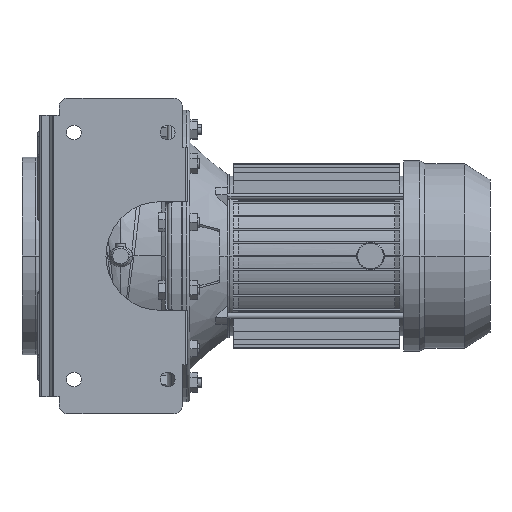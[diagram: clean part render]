
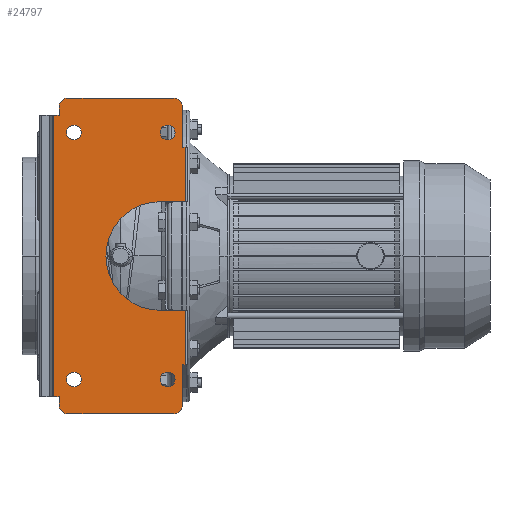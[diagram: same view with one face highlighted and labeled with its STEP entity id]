
A CAD part, front view. The second image highlights one B-rep face of the part: STEP entity #24797.
In plain terms, the highlighted planar face has unit normal (0, -1, 0).
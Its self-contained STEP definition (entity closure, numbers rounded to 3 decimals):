
#20863=CARTESIAN_POINT('',(47.5,-180.,-125.));
#20864=DIRECTION('',(0.,-1.,0.));
#20865=DIRECTION('',(1.,0.,0.));
#20866=AXIS2_PLACEMENT_3D('',#20863,#20864,#20865);
#20871=CARTESIAN_POINT('',(47.5,-180.,-125.));
#20872=DIRECTION('',(0.,-1.,0.));
#20873=DIRECTION('',(-1.,0.,0.));
#20874=AXIS2_PLACEMENT_3D('',#20871,#20872,#20873);
#20879=CARTESIAN_POINT('',(-47.5,-180.,-125.));
#20880=DIRECTION('',(0.,-1.,0.));
#20881=DIRECTION('',(1.,0.,0.));
#20882=AXIS2_PLACEMENT_3D('',#20879,#20880,#20881);
#20887=CARTESIAN_POINT('',(-47.5,-180.,-125.));
#20888=DIRECTION('',(0.,-1.,0.));
#20889=DIRECTION('',(-1.,0.,0.));
#20890=AXIS2_PLACEMENT_3D('',#20887,#20888,#20889);
#20895=CARTESIAN_POINT('',(47.5,-180.,125.));
#20896=DIRECTION('',(0.,-1.,0.));
#20897=DIRECTION('',(1.,0.,0.));
#20898=AXIS2_PLACEMENT_3D('',#20895,#20896,#20897);
#20903=CARTESIAN_POINT('',(47.5,-180.,125.));
#20904=DIRECTION('',(0.,-1.,0.));
#20905=DIRECTION('',(-1.,0.,0.));
#20906=AXIS2_PLACEMENT_3D('',#20903,#20904,#20905);
#20911=CARTESIAN_POINT('',(-47.5,-180.,125.));
#20912=DIRECTION('',(0.,-1.,0.));
#20913=DIRECTION('',(1.,0.,0.));
#20914=AXIS2_PLACEMENT_3D('',#20911,#20912,#20913);
#20919=CARTESIAN_POINT('',(-47.5,-180.,125.));
#20920=DIRECTION('',(0.,-1.,0.));
#20921=DIRECTION('',(-1.,0.,0.));
#20922=AXIS2_PLACEMENT_3D('',#20919,#20920,#20921);
#20927=DIRECTION('',(0.,0.,1.));
#20928=VECTOR('',#20927,55.);
#20929=CARTESIAN_POINT('',(65.5,-180.,-110.));
#20930=LINE('',#20929,#20928);
#20934=DIRECTION('',(0.,0.,-1.));
#20935=VECTOR('',#20934,41.);
#20936=CARTESIAN_POINT('',(62.5,-180.,-110.));
#20937=LINE('',#20936,#20935);
#20941=CARTESIAN_POINT('',(53.5,-180.,-151.));
#20942=DIRECTION('',(0.,-1.,0.));
#20943=DIRECTION('',(0.,0.,-1.));
#20944=AXIS2_PLACEMENT_3D('',#20941,#20942,#20943);
#20949=DIRECTION('',(-1.,0.,0.));
#20950=VECTOR('',#20949,107.);
#20951=CARTESIAN_POINT('',(53.5,-180.,-160.));
#20952=LINE('',#20951,#20950);
#20956=CARTESIAN_POINT('',(-53.5,-180.,-151.));
#20957=DIRECTION('',(0.,-1.,0.));
#20958=DIRECTION('',(-1.,0.,0.));
#20959=AXIS2_PLACEMENT_3D('',#20956,#20957,#20958);
#20964=DIRECTION('',(0.,0.,1.));
#20965=VECTOR('',#20964,8.5);
#20966=CARTESIAN_POINT('',(-62.5,-180.,-151.));
#20967=LINE('',#20966,#20965);
#20971=DIRECTION('',(-1.,0.,0.));
#20972=VECTOR('',#20971,5.172);
#20973=CARTESIAN_POINT('',(-62.5,-180.,-142.5));
#20974=LINE('',#20973,#20972);
#20978=DIRECTION('',(0.,0.,-1.));
#20979=VECTOR('',#20978,285.);
#20980=CARTESIAN_POINT('',(-67.672,-180.,142.5));
#20981=LINE('',#20980,#20979);
#20985=DIRECTION('',(1.,0.,0.));
#20986=VECTOR('',#20985,5.172);
#20987=CARTESIAN_POINT('',(-67.672,-180.,142.5));
#20988=LINE('',#20987,#20986);
#20992=DIRECTION('',(0.,0.,1.));
#20993=VECTOR('',#20992,8.5);
#20994=CARTESIAN_POINT('',(-62.5,-180.,142.5));
#20995=LINE('',#20994,#20993);
#20999=CARTESIAN_POINT('',(-53.5,-180.,151.));
#21000=DIRECTION('',(0.,-1.,0.));
#21001=DIRECTION('',(0.,0.,1.));
#21002=AXIS2_PLACEMENT_3D('',#20999,#21000,#21001);
#21007=DIRECTION('',(1.,0.,0.));
#21008=VECTOR('',#21007,107.);
#21009=CARTESIAN_POINT('',(-53.5,-180.,160.));
#21010=LINE('',#21009,#21008);
#21014=CARTESIAN_POINT('',(53.5,-180.,151.));
#21015=DIRECTION('',(0.,-1.,0.));
#21016=DIRECTION('',(1.,0.,0.));
#21017=AXIS2_PLACEMENT_3D('',#21014,#21015,#21016);
#21022=DIRECTION('',(0.,0.,-1.));
#21023=VECTOR('',#21022,41.);
#21024=CARTESIAN_POINT('',(62.5,-180.,151.));
#21025=LINE('',#21024,#21023);
#21029=DIRECTION('',(0.,0.,1.));
#21030=VECTOR('',#21029,55.);
#21031=CARTESIAN_POINT('',(65.5,-180.,55.));
#21032=LINE('',#21031,#21030);
#21036=CARTESIAN_POINT('',(40.,-180.,0.));
#21037=DIRECTION('',(0.,-1.,0.));
#21038=DIRECTION('',(0.,0.,1.));
#21039=AXIS2_PLACEMENT_3D('',#21036,#21037,#21038);
#21116=DIRECTION('',(1.,0.,0.));
#21117=VECTOR('',#21116,25.5);
#21118=CARTESIAN_POINT('',(40.,-180.,55.));
#21119=LINE('',#21118,#21117);
#21203=DIRECTION('',(-1.,0.,0.));
#21204=VECTOR('',#21203,25.5);
#21205=CARTESIAN_POINT('',(65.5,-180.,-55.));
#21206=LINE('',#21205,#21204);
#22530=DIRECTION('',(1.,0.,0.));
#22531=VECTOR('',#22530,3.);
#22532=CARTESIAN_POINT('',(62.5,-180.,-110.));
#22533=LINE('',#22532,#22531);
#22580=DIRECTION('',(-1.,0.,0.));
#22581=VECTOR('',#22580,3.);
#22582=CARTESIAN_POINT('',(65.5,-180.,110.));
#22583=LINE('',#22582,#22581);
#23644=CARTESIAN_POINT('',(-40.,-180.,125.));
#23645=CARTESIAN_POINT('',(-55.,-180.,125.));
#23646=VERTEX_POINT('',#23644);
#23647=VERTEX_POINT('',#23645);
#23648=CARTESIAN_POINT('',(55.,-180.,125.));
#23649=CARTESIAN_POINT('',(40.,-180.,125.));
#23650=VERTEX_POINT('',#23648);
#23651=VERTEX_POINT('',#23649);
#23652=CARTESIAN_POINT('',(-40.,-180.,-125.));
#23653=CARTESIAN_POINT('',(-55.,-180.,-125.));
#23654=VERTEX_POINT('',#23652);
#23655=VERTEX_POINT('',#23653);
#23656=CARTESIAN_POINT('',(55.,-180.,-125.));
#23657=CARTESIAN_POINT('',(40.,-180.,-125.));
#23658=VERTEX_POINT('',#23656);
#23659=VERTEX_POINT('',#23657);
#23660=CARTESIAN_POINT('',(40.,-180.,55.));
#23661=CARTESIAN_POINT('',(40.,-180.,-55.));
#23662=VERTEX_POINT('',#23660);
#23663=VERTEX_POINT('',#23661);
#23680=CARTESIAN_POINT('',(62.5,-180.,-110.));
#23682=VERTEX_POINT('',#23680);
#23684=CARTESIAN_POINT('',(-62.5,-180.,-142.5));
#23686=VERTEX_POINT('',#23684);
#23688=CARTESIAN_POINT('',(-62.5,-180.,142.5));
#23690=VERTEX_POINT('',#23688);
#23692=CARTESIAN_POINT('',(62.5,-180.,110.));
#23694=VERTEX_POINT('',#23692);
#23701=CARTESIAN_POINT('',(-62.5,-180.,151.));
#23703=VERTEX_POINT('',#23701);
#23706=CARTESIAN_POINT('',(-53.5,-180.,160.));
#23707=VERTEX_POINT('',#23706);
#23709=CARTESIAN_POINT('',(53.5,-180.,160.));
#23711=VERTEX_POINT('',#23709);
#23714=CARTESIAN_POINT('',(62.5,-180.,151.));
#23715=VERTEX_POINT('',#23714);
#23717=CARTESIAN_POINT('',(62.5,-180.,-151.));
#23719=VERTEX_POINT('',#23717);
#23722=CARTESIAN_POINT('',(53.5,-180.,-160.));
#23723=VERTEX_POINT('',#23722);
#23725=CARTESIAN_POINT('',(-53.5,-180.,-160.));
#23727=VERTEX_POINT('',#23725);
#23730=CARTESIAN_POINT('',(-62.5,-180.,-151.));
#23731=VERTEX_POINT('',#23730);
#23840=CARTESIAN_POINT('',(65.5,-180.,55.));
#23842=VERTEX_POINT('',#23840);
#23844=CARTESIAN_POINT('',(65.5,-180.,-55.));
#23846=VERTEX_POINT('',#23844);
#23848=CARTESIAN_POINT('',(65.5,-180.,-110.));
#23849=VERTEX_POINT('',#23848);
#23850=CARTESIAN_POINT('',(65.5,-180.,110.));
#23851=VERTEX_POINT('',#23850);
#23864=CARTESIAN_POINT('',(-67.672,-180.,-142.5));
#23866=VERTEX_POINT('',#23864);
#23870=CARTESIAN_POINT('',(-67.672,-180.,142.5));
#23871=VERTEX_POINT('',#23870);
#24729=CARTESIAN_POINT('',(67.5,-180.,55.));
#24730=DIRECTION('',(0.,1.,0.));
#24731=DIRECTION('',(0.,0.,1.));
#24732=AXIS2_PLACEMENT_3D('',#24729,#24730,#24731);
#24733=PLANE('',#24732);
#24735=ORIENTED_EDGE('',*,*,#24734,.F.);
#24737=ORIENTED_EDGE('',*,*,#24736,.F.);
#24739=ORIENTED_EDGE('',*,*,#24738,.T.);
#24741=ORIENTED_EDGE('',*,*,#24740,.F.);
#24743=ORIENTED_EDGE('',*,*,#24742,.T.);
#24745=ORIENTED_EDGE('',*,*,#24744,.F.);
#24747=ORIENTED_EDGE('',*,*,#24746,.T.);
#24748=ORIENTED_EDGE('',*,*,#24375,.T.);
#24750=ORIENTED_EDGE('',*,*,#24749,.F.);
#24751=ORIENTED_EDGE('',*,*,#24424,.T.);
#24753=ORIENTED_EDGE('',*,*,#24752,.T.);
#24755=ORIENTED_EDGE('',*,*,#24754,.F.);
#24757=ORIENTED_EDGE('',*,*,#24756,.T.);
#24759=ORIENTED_EDGE('',*,*,#24758,.F.);
#24761=ORIENTED_EDGE('',*,*,#24760,.T.);
#24763=ORIENTED_EDGE('',*,*,#24762,.F.);
#24765=ORIENTED_EDGE('',*,*,#24764,.F.);
#24767=ORIENTED_EDGE('',*,*,#24766,.F.);
#24769=ORIENTED_EDGE('',*,*,#24768,.T.);
#24771=ORIENTED_EDGE('',*,*,#24770,.F.);
#24772=EDGE_LOOP('',(#24735,#24737,#24739,#24741,#24743,#24745,#24747,#24748,
#24750,#24751,#24753,#24755,#24757,#24759,#24761,#24763,#24765,#24767,#24769,
#24771));
#24773=FACE_OUTER_BOUND('',#24772,.F.);
#24775=ORIENTED_EDGE('',*,*,#24774,.T.);
#24777=ORIENTED_EDGE('',*,*,#24776,.T.);
#24778=EDGE_LOOP('',(#24775,#24777));
#24779=FACE_BOUND('',#24778,.F.);
#24781=ORIENTED_EDGE('',*,*,#24780,.T.);
#24783=ORIENTED_EDGE('',*,*,#24782,.T.);
#24784=EDGE_LOOP('',(#24781,#24783));
#24785=FACE_BOUND('',#24784,.F.);
#24786=ORIENTED_EDGE('',*,*,#24719,.T.);
#24788=ORIENTED_EDGE('',*,*,#24787,.T.);
#24789=EDGE_LOOP('',(#24786,#24788));
#24790=FACE_BOUND('',#24789,.F.);
#24792=ORIENTED_EDGE('',*,*,#24791,.T.);
#24794=ORIENTED_EDGE('',*,*,#24793,.T.);
#24795=EDGE_LOOP('',(#24792,#24794));
#24796=FACE_BOUND('',#24795,.F.);
#20867=CIRCLE('',#20866,7.5);
#20875=CIRCLE('',#20874,7.5);
#20883=CIRCLE('',#20882,7.5);
#20891=CIRCLE('',#20890,7.5);
#20899=CIRCLE('',#20898,7.5);
#20907=CIRCLE('',#20906,7.5);
#20915=CIRCLE('',#20914,7.5);
#20923=CIRCLE('',#20922,7.5);
#20945=CIRCLE('',#20944,9.);
#20960=CIRCLE('',#20959,9.);
#21003=CIRCLE('',#21002,9.);
#21018=CIRCLE('',#21017,9.);
#21040=CIRCLE('',#21039,55.);
#24375=EDGE_CURVE('',#23686,#23866,#20974,.T.);
#24424=EDGE_CURVE('',#23871,#23690,#20988,.T.);
#24719=EDGE_CURVE('',#23646,#23647,#20915,.T.);
#24734=EDGE_CURVE('',#23849,#23846,#20930,.T.);
#24736=EDGE_CURVE('',#23682,#23849,#22533,.T.);
#24738=EDGE_CURVE('',#23682,#23719,#20937,.T.);
#24740=EDGE_CURVE('',#23723,#23719,#20945,.T.);
#24742=EDGE_CURVE('',#23723,#23727,#20952,.T.);
#24744=EDGE_CURVE('',#23731,#23727,#20960,.T.);
#24746=EDGE_CURVE('',#23731,#23686,#20967,.T.);
#24749=EDGE_CURVE('',#23871,#23866,#20981,.T.);
#24752=EDGE_CURVE('',#23690,#23703,#20995,.T.);
#24754=EDGE_CURVE('',#23707,#23703,#21003,.T.);
#24756=EDGE_CURVE('',#23707,#23711,#21010,.T.);
#24758=EDGE_CURVE('',#23715,#23711,#21018,.T.);
#24760=EDGE_CURVE('',#23715,#23694,#21025,.T.);
#24762=EDGE_CURVE('',#23851,#23694,#22583,.T.);
#24764=EDGE_CURVE('',#23842,#23851,#21032,.T.);
#24766=EDGE_CURVE('',#23662,#23842,#21119,.T.);
#24768=EDGE_CURVE('',#23662,#23663,#21040,.T.);
#24770=EDGE_CURVE('',#23846,#23663,#21206,.T.);
#24774=EDGE_CURVE('',#23654,#23655,#20883,.T.);
#24776=EDGE_CURVE('',#23655,#23654,#20891,.T.);
#24780=EDGE_CURVE('',#23650,#23651,#20899,.T.);
#24782=EDGE_CURVE('',#23651,#23650,#20907,.T.);
#24787=EDGE_CURVE('',#23647,#23646,#20923,.T.);
#24791=EDGE_CURVE('',#23658,#23659,#20867,.T.);
#24793=EDGE_CURVE('',#23659,#23658,#20875,.T.);
#24797=ADVANCED_FACE('',(#24773,#24779,#24785,#24790,#24796),#24733,.F.);
